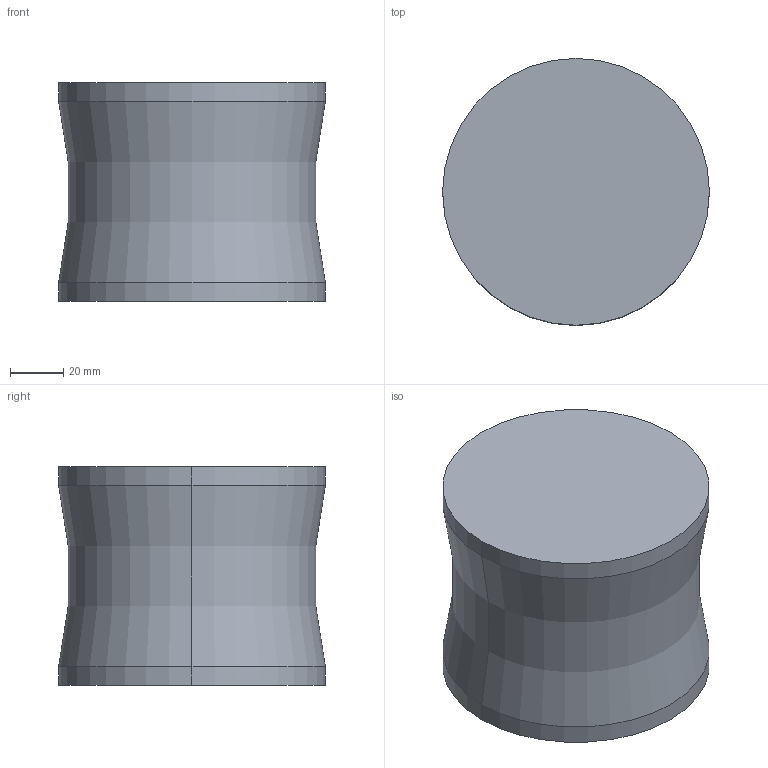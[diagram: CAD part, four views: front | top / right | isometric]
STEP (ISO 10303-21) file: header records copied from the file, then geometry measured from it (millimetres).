
FILE_DESCRIPTION(/* description */ (''),/* implementation_level */ '2;1');
FILE_NAME(/* name */ '3d_ex10080_06514_r00.stp',/* time_stamp */ '2011-01-10T14:15:38+09:00',/* author */ ('MISUMI'),/* organization */ (''),/* preprocessor_version */ 'ST-DEVELOPER v11',/* originating_system */ 'UGS - NX 5.0',/* authorisation */ '');
FILE_SCHEMA (('CONFIG_CONTROL_DESIGN'));
Length unit declared in the file: millimetre
Products named in the file (1): 3d_ex10080_06514_r00
Bounding box: 100 x 100 x 82 mm (x, y, z)
Volume: 588731.7 mm3; surface area: 40516.8 mm2
Topology: 1 solids, 1 shells, 8 faces, 14 edges, 8 vertices
Faces by surface type: cylinder 4, plane 2, torus 2
Entity records: 282 total; most frequent: DIRECTION 42, CARTESIAN_POINT 31, ORIENTED_EDGE 28, AXIS2_PLACEMENT_3D 19, EDGE_CURVE 14, CIRCLE 10, ADVANCED_FACE 8, FACE_OUTER_BOUND 8
